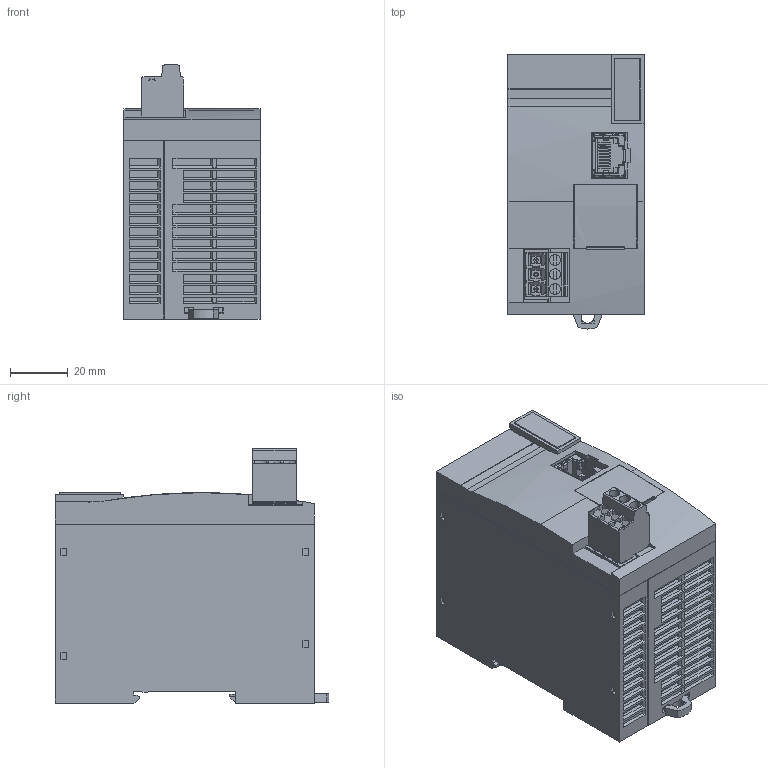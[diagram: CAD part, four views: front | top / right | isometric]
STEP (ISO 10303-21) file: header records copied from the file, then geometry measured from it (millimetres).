
FILE_DESCRIPTION (( 'STEP AP214' ), '1' );
FILE_NAME ('OUTSIDE-FC6A-EXM1S.STEP', '2017-06-30T03:57:23', ( '' ), ( '' ), 'SwSTEP 2.0', 'SolidWorks 2014', '' );
FILE_SCHEMA (( 'AUTOMOTIVE_DESIGN' ));
Length unit declared in the file: millimetre
Products named in the file (3): OUTSIDE-FC6A-EXM1S; OUTSIDE-FC6A-EX-DIN-RAIL-HOOK; OUTSIDE-FC6A-EXM1S-BODY
Assembly tree (2 placements, depth 2):
  OUTSIDE-FC6A-EXM1S
    OUTSIDE-FC6A-EXM1S-BODY
    OUTSIDE-FC6A-EX-DIN-RAIL-HOOK
Bounding box: 47.2 x 95 x 88.15 mm (x, y, z)
Volume: 252804.1 mm3; surface area: 63457.1 mm2
Topology: 2 solids, 2 shells, 1814 faces, 4995 edges, 3265 vertices
Faces by surface type: plane 1517, cylinder 266, cone 21, sphere 6, bspline 4
Entity records: 58628 total; most frequent: CARTESIAN_POINT 12602, ORIENTED_EDGE 9968, DIRECTION 8740, EDGE_CURVE 4984, VECTOR 4262, LINE 4262, VERTEX_POINT 3261, AXIS2_PLACEMENT_3D 2239
